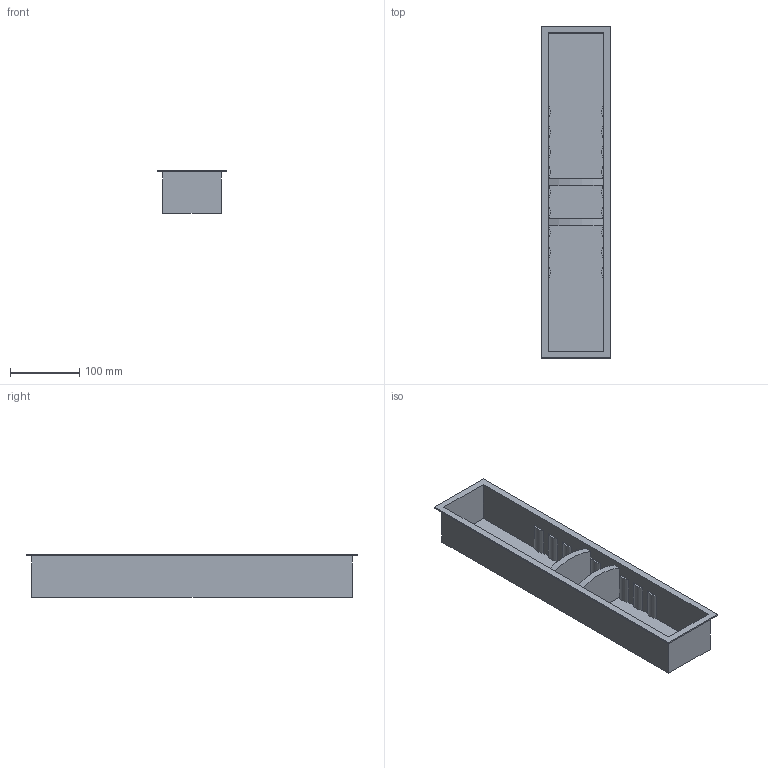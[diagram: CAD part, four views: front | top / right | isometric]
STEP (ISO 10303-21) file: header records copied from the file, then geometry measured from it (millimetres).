
FILE_DESCRIPTION (( 'STEP AP214' ), '1' );
FILE_NAME ('Vario-Schale_NL500.step', '2010-10-29T10:18:47', ( 'grass' ), ( '' ), 'SwSTEP 2.0', 'SolidWorks 2010', '' );
FILE_SCHEMA (( 'AUTOMOTIVE_DESIGN' ));
Length unit declared in the file: millimetre
Products named in the file (1): Vario-Schale_NL500
Bounding box: 100 x 479 x 62 mm (x, y, z)
Volume: 345425.2 mm3; surface area: 245625.3 mm2
Topology: 1 solids, 1 shells, 60 faces, 166 edges, 110 vertices
Faces by surface type: plane 40, cylinder 20
Entity records: 1948 total; most frequent: CARTESIAN_POINT 337, ORIENTED_EDGE 332, DIRECTION 328, EDGE_CURVE 166, LINE 126, VECTOR 126, VERTEX_POINT 110, AXIS2_PLACEMENT_3D 101
